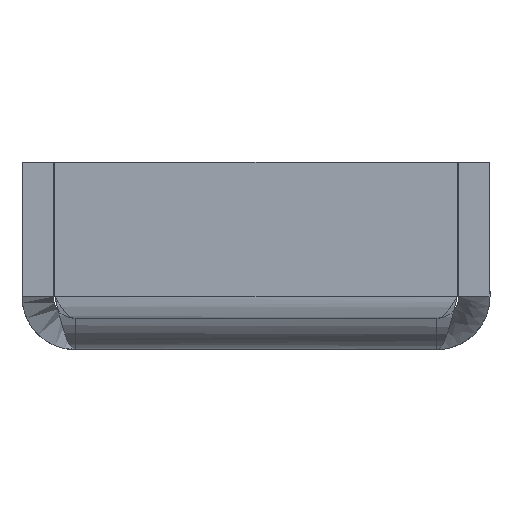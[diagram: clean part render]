
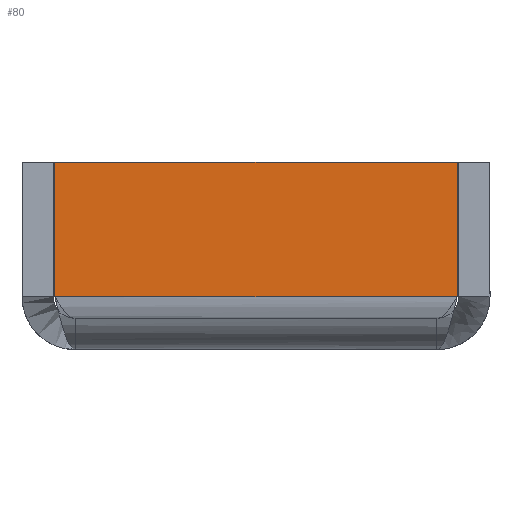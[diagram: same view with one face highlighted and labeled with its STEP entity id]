
A CAD part, left-side view. The second image highlights one B-rep face of the part: STEP entity #80.
In plain terms, the highlighted planar face has unit normal (-1, 0, 0).
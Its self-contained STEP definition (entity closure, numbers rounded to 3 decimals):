
#80=ADVANCED_FACE('',(#558),#560,.T.);
#558=FACE_BOUND('',#559,.T.);
#559=EDGE_LOOP('',(#885,#886,#887,#888));
#560=PLANE('',#561);
#561=AXIS2_PLACEMENT_3D('',#562,#563,#564);
#562=CARTESIAN_POINT('',(-440.,0.,0.));
#563=DIRECTION('',(-1.,0.,0.));
#564=DIRECTION('',(0.,-1.,0.));
#885=ORIENTED_EDGE('',*,*,#995,.F.);
#886=ORIENTED_EDGE('',*,*,#997,.F.);
#887=ORIENTED_EDGE('',*,*,#991,.T.);
#888=ORIENTED_EDGE('',*,*,#998,.T.);
#991=EDGE_CURVE('',#1093,#1099,#1103,.T.);
#995=EDGE_CURVE('',#1108,#1110,#1111,.T.);
#997=EDGE_CURVE('',#1093,#1108,#1113,.T.);
#998=EDGE_CURVE('',#1099,#1110,#1114,.T.);
#1093=VERTEX_POINT('',#1625);
#1099=VERTEX_POINT('',#1705);
#1103=LINE('',#1792,#1793);
#1108=VERTEX_POINT('',#1803);
#1110=VERTEX_POINT('',#1807);
#1111=LINE('',#1808,#1809);
#1113=LINE('',#1814,#1815);
#1114=LINE('',#1817,#1818);
#1625=CARTESIAN_POINT('',(-440.,12.9,1.4));
#1705=CARTESIAN_POINT('',(-440.,-12.9,1.4));
#1792=CARTESIAN_POINT('',(-440.,12.9,1.4));
#1793=VECTOR('',#1794,1.);
#1794=DIRECTION('',(0.,-1.,0.));
#1803=CARTESIAN_POINT('',(-440.,12.9,10.));
#1807=CARTESIAN_POINT('',(-440.,-12.9,10.));
#1808=CARTESIAN_POINT('',(-440.,12.9,10.));
#1809=VECTOR('',#1810,1.);
#1810=DIRECTION('',(0.,-1.,0.));
#1814=CARTESIAN_POINT('',(-440.,12.9,1.4));
#1815=VECTOR('',#1816,1.);
#1816=DIRECTION('',(0.,0.,1.));
#1817=CARTESIAN_POINT('',(-440.,-12.9,1.4));
#1818=VECTOR('',#1819,1.);
#1819=DIRECTION('',(0.,0.,1.));
